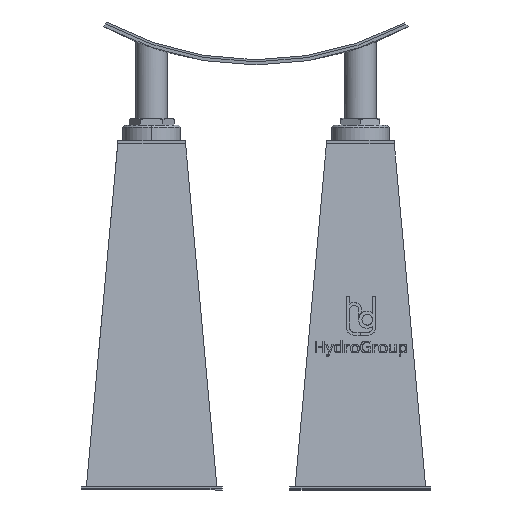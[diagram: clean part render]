
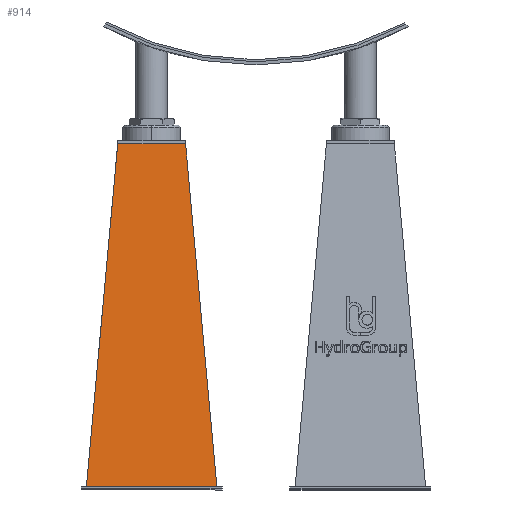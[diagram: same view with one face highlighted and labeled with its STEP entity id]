
A CAD part, front view. The second image highlights one B-rep face of the part: STEP entity #914.
In plain terms, the highlighted planar face has unit normal (0, -0.996, 0.091).
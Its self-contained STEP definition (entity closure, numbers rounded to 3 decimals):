
#914=ADVANCED_FACE('',(#2020),#2021,.T.);
#2020=FACE_OUTER_BOUND('',#3409,.T.);
#2021=PLANE('',#3410);
#3409=EDGE_LOOP('',(#6084,#6085,#6086,#6087));
#3410=AXIS2_PLACEMENT_3D('',#6088,#6089,#6090);
#6084=ORIENTED_EDGE('',*,*,#8998,.T.);
#6085=ORIENTED_EDGE('',*,*,#9015,.F.);
#6086=ORIENTED_EDGE('',*,*,#8985,.T.);
#6087=ORIENTED_EDGE('',*,*,#8745,.T.);
#6088=CARTESIAN_POINT('',(121.689,437.177,214.924));
#6089=DIRECTION('',(0.,-0.996,0.091));
#6090=DIRECTION('',(-1.0,0.,0.));
#8745=EDGE_CURVE('',#10436,#10434,#10437,.F.);
#8985=EDGE_CURVE('',#10750,#10436,#10751,.F.);
#8998=EDGE_CURVE('',#10434,#10772,#10775,.T.);
#9015=EDGE_CURVE('',#10750,#10772,#10796,.T.);
#10434=VERTEX_POINT('',#13161);
#10436=VERTEX_POINT('',#13164);
#10437=LINE('',#13165,#13166);
#10750=VERTEX_POINT('',#13736);
#10751=LINE('',#13737,#13738);
#10772=VERTEX_POINT('',#13769);
#10775=LINE('',#13773,#13774);
#10796=LINE('',#13805,#13806);
#13161=CARTESIAN_POINT('',(58.677,377.152,-442.349));
#13164=CARTESIAN_POINT('',(118.677,437.152,214.651));
#13165=CARTESIAN_POINT('',(119.235,437.711,220.761));
#13166=VECTOR('',#16754,1.);
#13736=CARTESIAN_POINT('',(248.702,437.152,214.651));
#13737=CARTESIAN_POINT('',(152.689,437.152,214.651));
#13738=VECTOR('',#16924,1.);
#13769=CARTESIAN_POINT('',(308.702,377.152,-442.349));
#13773=CARTESIAN_POINT('',(152.689,377.152,-442.349));
#13774=VECTOR('',#16936,1.);
#13805=CARTESIAN_POINT('',(248.144,437.711,220.761));
#13806=VECTOR('',#16947,1.);
#16754=DIRECTION('',(0.091,0.091,0.992));
#16924=DIRECTION('',(1.0,0.,0.));
#16936=DIRECTION('',(1.0,0.,0.));
#16947=DIRECTION('',(0.091,-0.091,-0.992));
